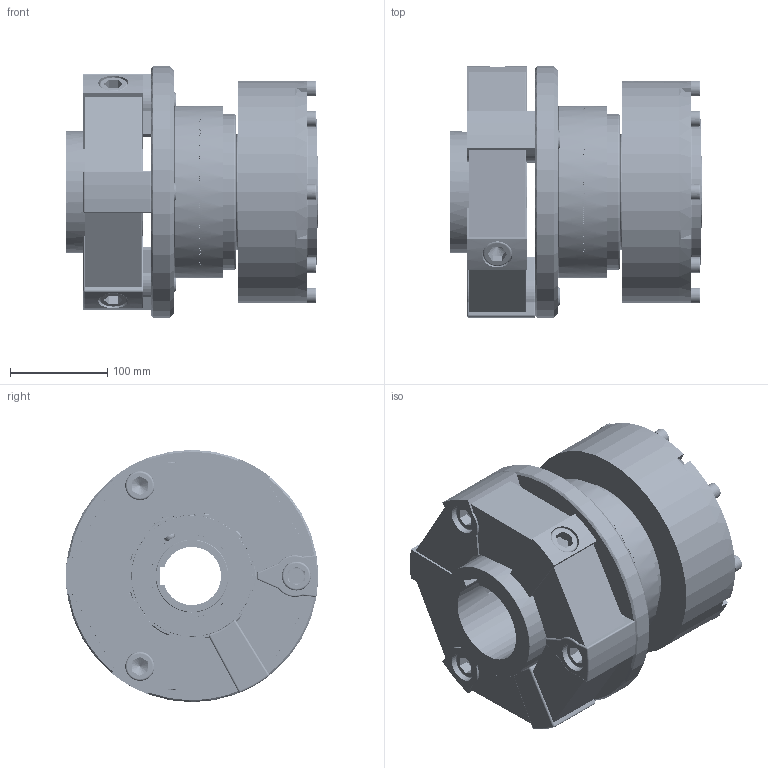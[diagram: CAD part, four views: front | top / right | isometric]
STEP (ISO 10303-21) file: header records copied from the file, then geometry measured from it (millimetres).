
FILE_DESCRIPTION(/* description */ (''),/* implementation_level */ '2;1');
FILE_NAME(/* name */ 'X:\INVENTOR\DISEGNI\03_Friz_Oleod_Pneum_Cil_Stat\03_62 DPG-N\03_62_06_01 DPG-N06\03_62_06_01 DPG-N06@STEP.stp',/* time_stamp */ '2023-02-06T15:20:30+01:00',/* author */ ('alessio'),/* organization */ (''),/* preprocessor_version */ 'ST-DEVELOPER v18.1',/* originating_system */ 'Autodesk Inventor 2021',/* authorisation */ '');
FILE_SCHEMA (('AUTOMOTIVE_DESIGN { 1 0 10303 214 3 1 1 }'));
Length unit declared in the file: millimetre
Products named in the file (1): 03_62_06_01 DPG-N06
Bounding box: 260 x 260 x 260 mm (x, y, z)
Volume: 7232723.9 mm3; surface area: 1062261.8 mm2
Topology: 1 solids, 49 shells, 4193 faces, 12201 edges, 8052 vertices
Faces by surface type: plane 2590, cylinder 644, bspline 468, torus 348, cone 81, sphere 62
Full cylindrical faces by diameter (mm): 3 x4, 3.5 x2, 4 x2, 6.647 x6, 6.917 x1, 7.5 x6, 8 x10, 8.376 x8, 8.5 x6, 9.5 x30, 10 x8, 10.5 x8, 11.445 x1, 13 x6, 13.5 x6, 16 x8, 17.294 x3, 20 x9, 20.2 x3, 21 x3, 30 x6, 30.5 x3, 31 x3, 72 x2, 75 x7, 79 x1, 85 x1, 87.8 x4, 88 x1, 91 x1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
Entity records: 210728 total; most frequent: CARTESIAN_POINT 94130, DIRECTION 25059, ORIENTED_EDGE 24104, EDGE_CURVE 12052, AXIS2_PLACEMENT_3D 10820, VERTEX_POINT 8052, EDGE_LOOP 4546, FACE_OUTER_BOUND 4193
